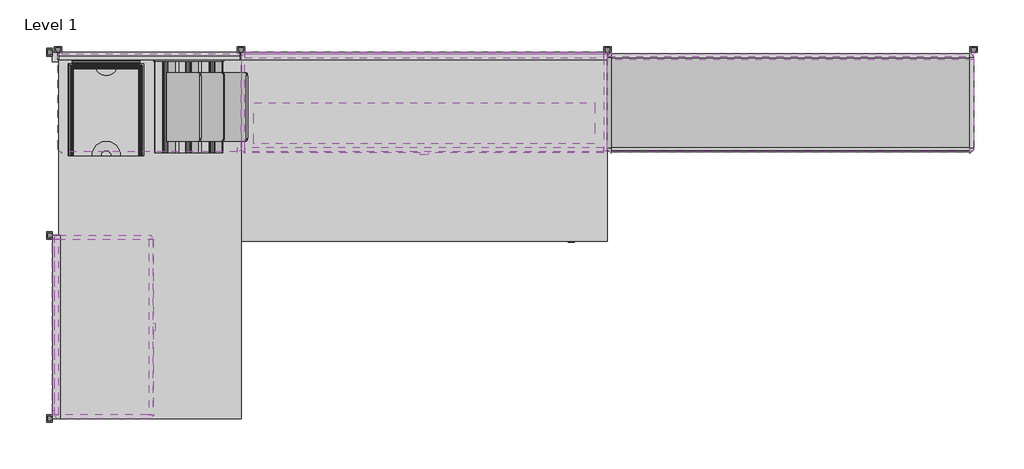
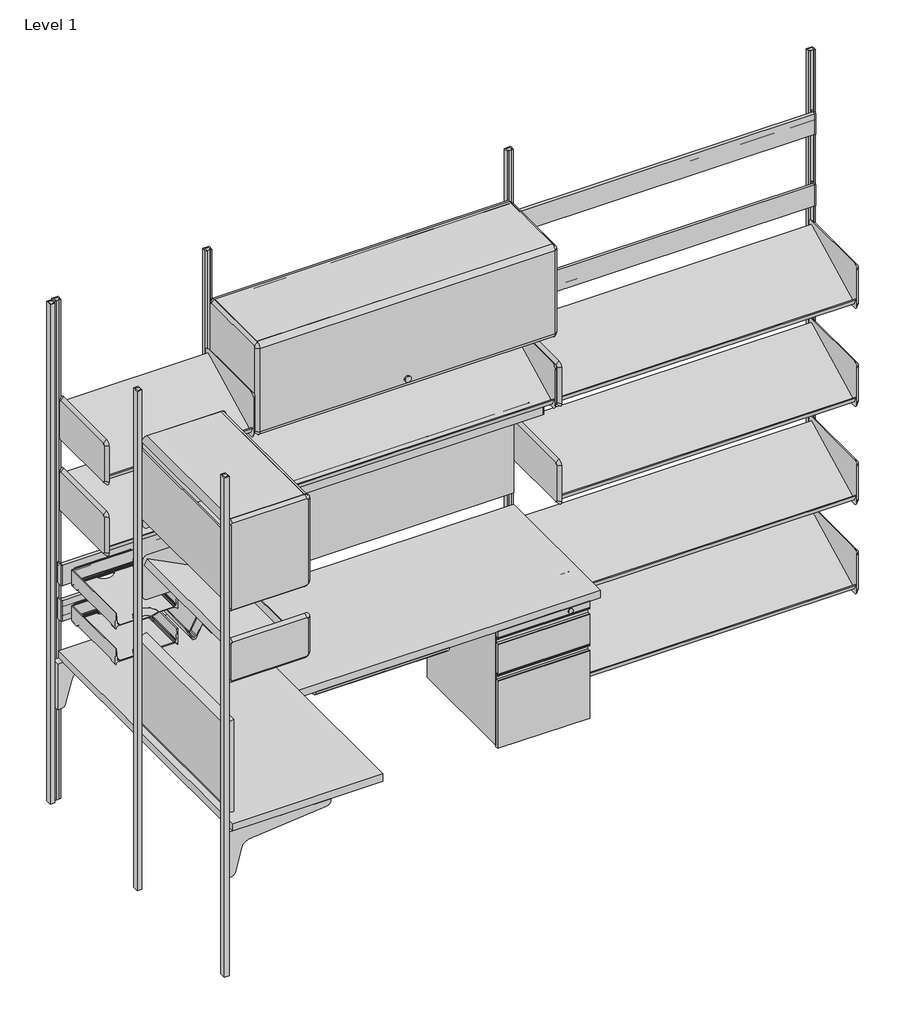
# One storey, incomplete: 34 furniture elements, 1 light fixture.
"""IFC4 building model written with IfcOpenShell, lengths in millimetres."""

from ifc_helpers import new_model, si_unit, origin, place, context, project, spatial, transform, mapped, element, save
from components import furniture_03e73c74, furniture_8229559b, furniture_aa752300, furniture_ed62e435, furniture_5639b6dc, furniture_960b9f32, furniture_377c570e, furniture_061b7ed1, furniture_083a197f, furniture_17bfd149, furniture_52571506, furniture_cacd6572, furniture_cb78dd66, furniture_439dfb7c, furniture_a5020ea5, furniture_f611e85c, furniture_c21b4e62, furniture_da2f930f, furniture_82778d6f, furniture_ebb16344, furniture_fa600c10, furniture_8d228605, furniture_c8015b5a, furniture_30e258f1, furniture_ea425779, light_fixture_48w_for_action_office_09e55f13

model = new_model("IFC4")

# Units and contexts
model_context = context("Model", 3, world=origin())
ifc_project = project(units=[si_unit("LENGTHUNIT", "METRE", prefix="MILLI")], contexts=[model_context])

# Site, building, storey
site = spatial("IfcSite", under=ifc_project)
building = spatial("IfcBuilding", under=site)
storey = spatial("IfcBuildingStorey", under=building, Name="Level 1", Elevation=0.0)

# Furniture
placement = place(None, origin())
furniture_shape = furniture_03e73c74(model_context)
element("IfcFurniture", 1, ObjectType="HermanMiller_ActionOffice_A3220_B-StyleStorageDisplay : Display 13\"D x 24\"W", at=placement, inside=storey, context=model_context, shape_type="MappedRepresentation", body=[
    mapped(furniture_shape, transform((165.1, -809.5079955, 0.0), x_axis=(0.0, 1.0, 0.0), y_axis=(-1.0, 0.0, 0.0), z_axis=(0.0, 0.0, 1.0))),
])
element("IfcFurniture", 2, ObjectType="HermanMiller_ActionOffice_A3220_B-StyleStorageDisplay : Display 13\"D x 24\"W", at=placement, inside=storey, context=model_context, shape_type="MappedRepresentation", body=[
    mapped(furniture_shape, transform((428.7420045, -200.025, 0.0), x_axis=(1.0, 0.0, 0.0), y_axis=(0.0, 1.0, 0.0), z_axis=(0.0, 0.0, 1.0))),
])
furniture_2_shape = furniture_8229559b(model_context)
element("IfcFurniture", 3, ObjectType="HermanMiller_ThrivePortfolio_Y7216_PaperTray : 3\"H x 12\"D x 10\"W", at=placement, inside=storey, context=model_context, shape_type="MappedRepresentation", body=[
    mapped(furniture_2_shape, transform((160.12668, -209.59826, 0.0), x_axis=(1.0, 0.0, 0.0), y_axis=(0.0, 1.0, 0.0), z_axis=(0.0, 0.0, 1.0))),
])
furniture_3_shape = furniture_aa752300(model_context)
element("IfcFurniture", 4, ObjectType="HermanMiller_ThrivePortfolio_Y7218_DiagonalTray : 8 1/2\"H x 12\"D x 13\"W", at=placement, inside=storey, context=model_context, shape_type="MappedRepresentation", body=[
    mapped(furniture_3_shape, transform((435.414177, -199.3138, 0.0), x_axis=(1.0, 0.0, 0.0), y_axis=(0.0, 1.0, 0.0), z_axis=(0.0, 0.0, 1.0))),
])
furniture_4_shape = furniture_ed62e435(model_context)
element("IfcFurniture", 5, ObjectType="HermanMiller_ThrivePortfolio_Y7216_PaperTray : 3\"H x 12\"D x 10\"W", at=placement, inside=storey, context=model_context, shape_type="MappedRepresentation", body=[
    mapped(furniture_4_shape, transform((160.12668, -209.59826, 0.0), x_axis=(1.0, 0.0, 0.0), y_axis=(0.0, 1.0, 0.0), z_axis=(0.0, 0.0, 1.0))),
])
furniture_5_shape = furniture_5639b6dc(model_context)
element("IfcFurniture", 6, ObjectType="HermanMiller_ThrivePortfolio_Y5010_PencilDrawer : 2\"H x 16\"D x 21\"W", at=placement, inside=storey, context=model_context, shape_type="MappedRepresentation", body=[
    mapped(furniture_5_shape, transform((950.9125, -441.325, 0.0), x_axis=(1.0, 0.0, 0.0), y_axis=(0.0, 1.0, 0.0), z_axis=(0.0, 0.0, 1.0))),
])
furniture_6_shape = furniture_960b9f32(model_context)
element("IfcFurniture", 7, ObjectType="HermanMiller_ActionOffice_A3610_ToolBar : 4\"H x 48\"W", at=placement, inside=storey, context=model_context, shape_type="MappedRepresentation", body=[
    mapped(furniture_6_shape, transform((2438.4, -31.7499996, 0.0), x_axis=(1.0, 0.0, 0.0), y_axis=(0.0, 1.0, 0.0), z_axis=(0.0, 0.0, 1.0))),
])
furniture_7_shape = furniture_377c570e(model_context)
element("IfcFurniture", 8, ObjectType="HermanMiller_ActionOffice_A3610_ToolBar : 4\"H x 48\"W", at=placement, inside=storey, context=model_context, shape_type="MappedRepresentation", body=[
    mapped(furniture_7_shape, transform((2438.4, -31.7499996, 0.0), x_axis=(1.0, 0.0, 0.0), y_axis=(0.0, 1.0, 0.0), z_axis=(0.0, 0.0, 1.0))),
])
furniture_8_shape = furniture_061b7ed1(model_context)
element("IfcFurniture", 9, ObjectType="HermanMiller_ActionOffice_A3410_B-StyleTackboard : 16\"H x 24\"W", at=placement, inside=storey, context=model_context, shape_type="MappedRepresentation", body=[
    mapped(furniture_8_shape, transform((-5.40766, -933.45, 0.0), x_axis=(0.0, -1.0, 0.0), y_axis=(1.0, 0.0, 0.0), z_axis=(0.0, 0.0, 1.0))),
])
furniture_9_shape = furniture_083a197f(model_context)
element("IfcFurniture", 10, ObjectType="HermanMiller_ActionOffice_A2310_Sq-EdgeRectangularWorkSurface : 24\"D x 48\"W", at=placement, inside=storey, context=model_context, shape_type="MappedRepresentation", body=[
    mapped(furniture_9_shape, transform((295.275, -628.65, 0.0), x_axis=(0.0, 1.0, 0.0), y_axis=(-1.0, 0.0, 0.0), z_axis=(0.0, 0.0, 1.0))),
])
element("IfcFurniture", 11, ObjectType="HermanMiller_ActionOffice_A2310_Sq-EdgeRectangularWorkSurface : 24\"D x 48\"W", at=placement, inside=storey, context=model_context, shape_type="MappedRepresentation", body=[
    mapped(furniture_9_shape, transform((1219.2, -333.375, 0.0), x_axis=(1.0, 0.0, 0.0), y_axis=(0.0, 1.0, 0.0), z_axis=(0.0, 0.0, 1.0))),
])
furniture_10_shape = furniture_17bfd149(model_context)
element("IfcFurniture", 12, ObjectType="HermanMiller_ActionOffice_A3610_ToolBar : 4\"H x 24\"W", at=placement, inside=storey, context=model_context, shape_type="MappedRepresentation", body=[
    mapped(furniture_10_shape, transform((304.8, -31.7499996, 0.0), x_axis=(1.0, 0.0, 0.0), y_axis=(0.0, 1.0, 0.0), z_axis=(0.0, 0.0, 1.0))),
])
furniture_11_shape = furniture_52571506(model_context)
element("IfcFurniture", 13, ObjectType="HermanMiller_ActionOffice_A3610_ToolBar : 4\"H x 24\"W", at=placement, inside=storey, context=model_context, shape_type="MappedRepresentation", body=[
    mapped(furniture_11_shape, transform((304.8, -31.7499996, 0.0), x_axis=(1.0, 0.0, 0.0), y_axis=(0.0, 1.0, 0.0), z_axis=(0.0, 0.0, 1.0))),
])
furniture_12_shape = furniture_cacd6572(model_context)
element("IfcFurniture", 14, ObjectType="HermanMiller_ActionOffice_A3220_B-StyleStorageDisplay : Display 13\"D x 24\"W", at=placement, inside=storey, context=model_context, shape_type="MappedRepresentation", body=[
    mapped(furniture_12_shape, transform((428.7420045, -200.025, 0.0), x_axis=(1.0, 0.0, 0.0), y_axis=(0.0, 1.0, 0.0), z_axis=(0.0, 0.0, 1.0))),
])
furniture_13_shape = furniture_cb78dd66(model_context)
element("IfcFurniture", 15, ObjectType="HermanMiller_ActionOffice_A3410_B-StyleTackboard : 16\"H x 48\"W", at=placement, inside=storey, context=model_context, shape_type="MappedRepresentation", body=[
    mapped(furniture_13_shape, transform((1219.2, -31.75, 0.0), x_axis=(-1.0, 0.0, 0.0), y_axis=(0.0, -1.0, 0.0), z_axis=(0.0, 0.0, 1.0))),
])
furniture_14_shape = furniture_439dfb7c(model_context)
element("IfcFurniture", 16, ObjectType="HermanMiller_ActionOffice_A3220_B-StyleStorageDisplay : Display 13\"D x 48\"W", at=placement, inside=storey, context=model_context, shape_type="MappedRepresentation", body=[
    mapped(furniture_14_shape, transform((1343.1420045, -200.025, 0.0), x_axis=(1.0, 0.0, 0.0), y_axis=(0.0, 1.0, 0.0), z_axis=(0.0, 0.0, 1.0))),
])
element("IfcFurniture", 17, ObjectType="HermanMiller_ActionOffice_A3220_B-StyleStorageDisplay : Display 13\"D x 48\"W", at=placement, inside=storey, context=model_context, shape_type="MappedRepresentation", body=[
    mapped(furniture_14_shape, transform((2562.3420045, -200.025, 0.0), x_axis=(1.0, 0.0, 0.0), y_axis=(0.0, 1.0, 0.0), z_axis=(0.0, 0.0, 1.0))),
])
furniture_15_shape = furniture_a5020ea5(model_context)
element("IfcFurniture", 18, ObjectType="HermanMiller_ActionOffice_A3220_B-StyleStorageDisplay : Display 13\"D x 48\"W", at=placement, inside=storey, context=model_context, shape_type="MappedRepresentation", body=[
    mapped(furniture_15_shape, transform((2562.3420045, -200.025, 0.0), x_axis=(1.0, 0.0, 0.0), y_axis=(0.0, 1.0, 0.0), z_axis=(0.0, 0.0, 1.0))),
])
furniture_16_shape = furniture_f611e85c(model_context)
element("IfcFurniture", 19, ObjectType="HermanMiller_ActionOffice_A3220_B-StyleStorageDisplay : Display 13\"D x 48\"W", at=placement, inside=storey, context=model_context, shape_type="MappedRepresentation", body=[
    mapped(furniture_16_shape, transform((2562.3420045, -200.025, 0.0), x_axis=(1.0, 0.0, 0.0), y_axis=(0.0, 1.0, 0.0), z_axis=(0.0, 0.0, 1.0))),
])
furniture_17_shape = furniture_c21b4e62(model_context)
element("IfcFurniture", 20, ObjectType="HermanMiller_ActionOffice_A3220_B-StyleStorageDisplay : Display 13\"D x 48\"W", at=placement, inside=storey, context=model_context, shape_type="MappedRepresentation", body=[
    mapped(furniture_17_shape, transform((2562.3420045, -200.025, 0.0), x_axis=(1.0, 0.0, 0.0), y_axis=(0.0, 1.0, 0.0), z_axis=(0.0, 0.0, 1.0))),
])
furniture_18_shape = furniture_da2f930f(model_context)
element("IfcFurniture", 21, ObjectType="HermanMiller_TuStorage_LW130_W-PullSuspendedPedestal : 20D BF", at=placement, inside=storey, context=model_context, shape_type="MappedRepresentation", body=[
    mapped(furniture_18_shape, transform((1600.6043161, -401.6375, 0.0), x_axis=(1.0, 0.0, 0.0), y_axis=(0.0, 1.0, 0.0), z_axis=(0.0, 0.0, 1.0))),
])
furniture_19_shape = furniture_82778d6f(model_context)
element("IfcFurniture", 22, ObjectType="HermanMiller_ActionOffice_B-StyleFlipperDoor : Paint 15-1/2H x 13D x 24W", at=placement, inside=storey, context=model_context, shape_type="MappedRepresentation", body=[
    mapped(furniture_19_shape, transform((161.925, -933.45, 457.2), x_axis=(0.0, 1.0, 0.0), y_axis=(-1.0, 0.0, 0.0), z_axis=(0.0, 0.0, 1.0))),
])
furniture_20_shape = furniture_ebb16344(model_context)
element("IfcFurniture", 23, ObjectType="HermanMiller_ActionOffice_B-StyleFlipperDoor : Paint 15-1/2H x 13D x 48W", at=placement, inside=storey, context=model_context, shape_type="MappedRepresentation", body=[
    mapped(furniture_20_shape, transform((1219.2, -197.7263, 457.2), x_axis=(1.0, 0.0, 0.0), y_axis=(0.0, 1.0, 0.0), z_axis=(0.0, 0.0, 1.0))),
])
furniture_21_shape = furniture_fa600c10(model_context)
element("IfcFurniture", 24, ObjectType="HermanMiller_CoStruc_B-StyleShelf : 15-1/2H x 13D x 24W", at=placement, inside=storey, context=model_context, shape_type="MappedRepresentation", body=[
    mapped(furniture_21_shape, transform((165.1, -809.5079955, 457.2), x_axis=(0.0, 1.0, 0.0), y_axis=(-1.0, 0.0, 0.0), z_axis=(0.0, 0.0, 1.0))),
])
furniture_22_shape = furniture_8d228605(model_context)
element("IfcFurniture", 25, ObjectType="HermanMiller_CoStruc_B-StyleShelf : 15-1/2H x 13D x 48W", at=placement, inside=storey, context=model_context, shape_type="MappedRepresentation", body=[
    mapped(furniture_22_shape, transform((1343.1420045, -200.025, 457.2), x_axis=(1.0, 0.0, 0.0), y_axis=(0.0, 1.0, 0.0), z_axis=(0.0, 0.0, 1.0))),
])
furniture_23_shape = furniture_c8015b5a(model_context)
element("IfcFurniture", 26, ObjectType="HermanMiller_ActionOffice_A3390_B-StyleFlipperDoorBackPanel : 24\"W", at=placement, inside=storey, context=model_context, shape_type="MappedRepresentation", body=[
    mapped(furniture_23_shape, transform((-12.7, -920.75, 0.0), x_axis=(0.0, -1.0, 0.0), y_axis=(1.0, 0.0, 0.0), z_axis=(0.0, 0.0, 1.0))),
])
furniture_24_shape = furniture_30e258f1(model_context)
element("IfcFurniture", 27, ObjectType="HermanMiller_ActionOffice_A3390_B-StyleFlipperDoorBackPanel : 48\"W", at=placement, inside=storey, context=model_context, shape_type="MappedRepresentation", body=[
    mapped(furniture_24_shape, transform((1219.2, -25.4, 0.0), x_axis=(-1.0, 0.0, 0.0), y_axis=(0.0, -1.0, 0.0), z_axis=(0.0, 0.0, 1.0))),
])
furniture_25_shape = furniture_ea425779(model_context)
element("IfcFurniture", 28, ObjectType="HermanMiller_ActionOffice_AO213_WallStrip : 84\"H", at=placement, inside=storey, context=model_context, shape_type="MappedRepresentation", body=[
    mapped(furniture_25_shape, transform((-38.1, -1238.25, 0.0), x_axis=(0.0, 1.0, 0.0), y_axis=(-1.0, 0.0, 0.0), z_axis=(0.0, 0.0, 1.0))),
])
element("IfcFurniture", 29, ObjectType="HermanMiller_ActionOffice_AO213_WallStrip : 84\"H", at=placement, inside=storey, context=model_context, shape_type="MappedRepresentation", body=[
    mapped(furniture_25_shape, transform((0.0, 0.0, 0.0), x_axis=(1.0, 0.0, 0.0), y_axis=(0.0, 1.0, 0.0), z_axis=(0.0, 0.0, 1.0))),
])
element("IfcFurniture", 30, ObjectType="HermanMiller_ActionOffice_AO213_WallStrip : 84\"H", at=placement, inside=storey, context=model_context, shape_type="MappedRepresentation", body=[
    mapped(furniture_25_shape, transform((609.6, 0.0, 0.0), x_axis=(1.0, 0.0, 0.0), y_axis=(0.0, 1.0, 0.0), z_axis=(0.0, 0.0, 1.0))),
])
element("IfcFurniture", 31, ObjectType="HermanMiller_ActionOffice_AO213_WallStrip : 84\"H", at=placement, inside=storey, context=model_context, shape_type="MappedRepresentation", body=[
    mapped(furniture_25_shape, transform((-38.1, -628.65, 0.0), x_axis=(0.0, 1.0, 0.0), y_axis=(-1.0, 0.0, 0.0), z_axis=(0.0, 0.0, 1.0))),
])
element("IfcFurniture", 32, ObjectType="HermanMiller_ActionOffice_AO213_WallStrip : 84\"H", at=placement, inside=storey, context=model_context, shape_type="MappedRepresentation", body=[
    mapped(furniture_25_shape, transform((-38.1, -19.05, 0.0), x_axis=(0.0, 1.0, 0.0), y_axis=(-1.0, 0.0, 0.0), z_axis=(0.0, 0.0, 1.0))),
])
element("IfcFurniture", 33, ObjectType="HermanMiller_ActionOffice_AO213_WallStrip : 84\"H", at=placement, inside=storey, context=model_context, shape_type="MappedRepresentation", body=[
    mapped(furniture_25_shape, transform((3048.0, 0.0, 0.0), x_axis=(1.0, 0.0, 0.0), y_axis=(0.0, 1.0, 0.0), z_axis=(0.0, 0.0, 1.0))),
])
element("IfcFurniture", 34, ObjectType="HermanMiller_ActionOffice_AO213_WallStrip : 84\"H", at=placement, inside=storey, context=model_context, shape_type="MappedRepresentation", body=[
    mapped(furniture_25_shape, transform((1828.8, 0.0, 0.0), x_axis=(1.0, 0.0, 0.0), y_axis=(0.0, 1.0, 0.0), z_axis=(0.0, 0.0, 1.0))),
])

# Light fixture
light_fixture_48w_for_action_office_shape = light_fixture_48w_for_action_office_09e55f13(model_context)
element("IfcLightFixture", 35, ObjectType="HermanMiller_SupplementalProducts_G6170_EUnderShelfLEDTaskLight : 48W for Action Office", at=placement, inside=storey, context=model_context, shape_type="MappedRepresentation", body=[
    mapped(light_fixture_48w_for_action_office_shape, transform((1219.2, -255.82626, 124.8679666), x_axis=(1.0, 0.0, 0.0), y_axis=(0.0, 1.0, 0.0), z_axis=(0.0, 0.0, 1.0))),
])

save(model, "model.ifc")
